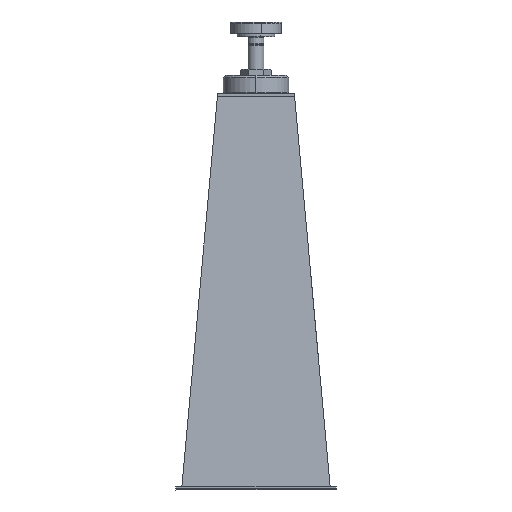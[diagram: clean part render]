
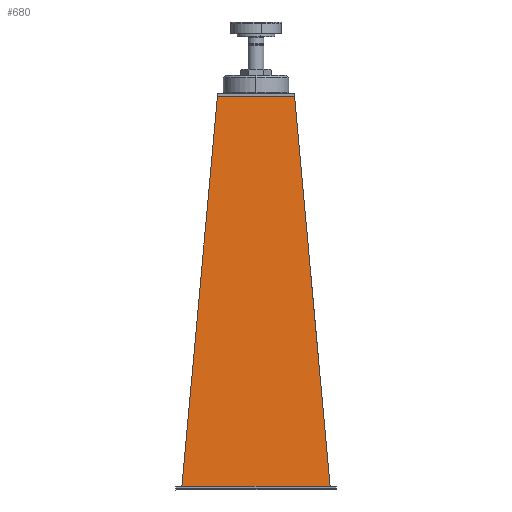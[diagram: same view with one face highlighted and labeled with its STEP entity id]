
A CAD part, left-side view. The second image highlights one B-rep face of the part: STEP entity #680.
In plain terms, the highlighted planar face has unit normal (-0.996, 0, 0.091).
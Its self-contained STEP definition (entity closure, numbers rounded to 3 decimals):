
#680=ADVANCED_FACE('',(#1384),#1385,.T.);
#1384=FACE_OUTER_BOUND('',#2151,.T.);
#1385=PLANE('',#2152);
#2151=EDGE_LOOP('',(#4196,#4197,#4198,#4199));
#2152=AXIS2_PLACEMENT_3D('',#4200,#4201,#4202);
#4196=ORIENTED_EDGE('',*,*,#5189,.T.);
#4197=ORIENTED_EDGE('',*,*,#4937,.F.);
#4198=ORIENTED_EDGE('',*,*,#5177,.T.);
#4199=ORIENTED_EDGE('',*,*,#5204,.T.);
#4200=CARTESIAN_POINT('',(122.356,283.406,663.273));
#4201=DIRECTION('',(-0.996,0.,0.091));
#4202=DIRECTION('',(0.,1.0,0.));
#4937=EDGE_CURVE('',#5959,#5954,#5961,.F.);
#5177=EDGE_CURVE('',#5959,#6273,#6275,.F.);
#5189=EDGE_CURVE('',#6294,#5954,#6297,.T.);
#5204=EDGE_CURVE('',#6273,#6294,#6316,.F.);
#5954=VERTEX_POINT('',#7698);
#5959=VERTEX_POINT('',#7705);
#5961=LINE('',#7708,#7709);
#6273=VERTEX_POINT('',#8277);
#6275=LINE('',#8280,#8281);
#6294=VERTEX_POINT('',#8308);
#6297=LINE('',#8313,#8314);
#6316=LINE('',#8341,#8342);
#7698=CARTESIAN_POINT('',(62.331,96.393,6.));
#7705=CARTESIAN_POINT('',(122.331,156.393,663.));
#7708=CARTESIAN_POINT('',(122.889,156.951,669.11));
#7709=VECTOR('',#8906,1.);
#8277=CARTESIAN_POINT('',(122.331,286.418,663.));
#8280=CARTESIAN_POINT('',(122.331,252.406,663.));
#8281=VECTOR('',#9076,1.);
#8308=CARTESIAN_POINT('',(62.331,346.418,6.));
#8313=CARTESIAN_POINT('',(62.331,252.406,6.));
#8314=VECTOR('',#9087,1.);
#8341=CARTESIAN_POINT('',(122.889,285.86,669.11));
#8342=VECTOR('',#9096,1.);
#8906=DIRECTION('',(0.091,0.091,0.992));
#9076=DIRECTION('',(0.,-1.0,0.));
#9087=DIRECTION('',(0.,-1.0,0.));
#9096=DIRECTION('',(0.091,-0.091,0.992));
